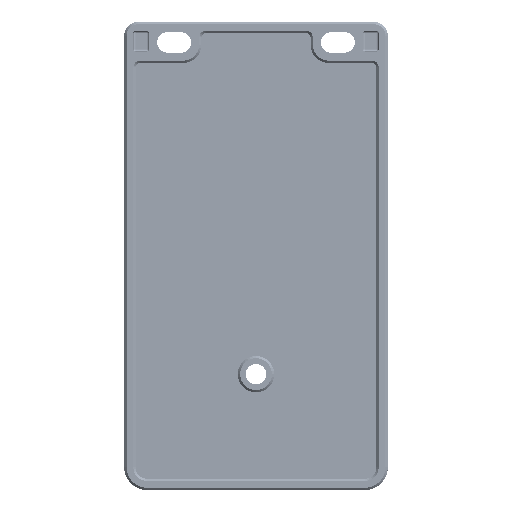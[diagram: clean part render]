
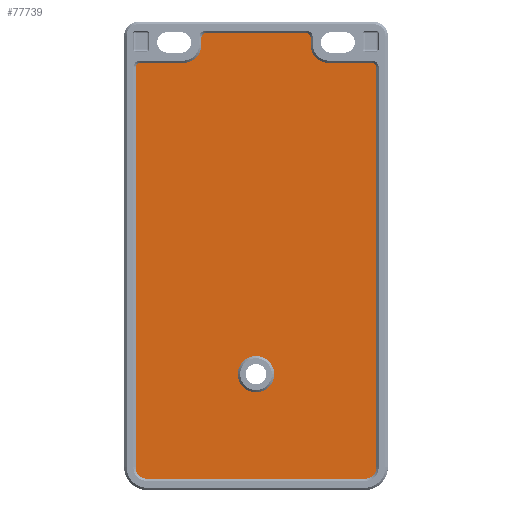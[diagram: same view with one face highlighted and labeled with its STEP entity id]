
A CAD part, front view. The second image highlights one B-rep face of the part: STEP entity #77739.
In plain terms, the highlighted planar face has unit normal (0, -1, 0).
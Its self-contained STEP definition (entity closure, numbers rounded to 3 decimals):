
#13615=DIRECTION('',(0.,0.,1.));
#13616=VECTOR('',#13615,1.6);
#13617=CARTESIAN_POINT('',(-12.,0.5,
148.));
#13618=LINE('',#13617,#13616);
#13627=DIRECTION('',(1.,0.,0.));
#13628=VECTOR('',#13627,22.);
#13629=CARTESIAN_POINT('',(-11.,0.5,150.6));
#13630=LINE('',#13629,#13628);
#13639=DIRECTION('',(0.,0.,-1.));
#13640=VECTOR('',#13639,1.6);
#13641=CARTESIAN_POINT('',(12.,0.5,149.6));
#13642=LINE('',#13641,#13640);
#13651=DIRECTION('',(1.,0.,0.));
#13652=VECTOR('',#13651,9.5);
#13653=CARTESIAN_POINT('',(16.,0.5,144.));
#13654=LINE('',#13653,#13652);
#13663=DIRECTION('',(0.,0.,-1.));
#13664=VECTOR('',#13663,88.);
#13665=CARTESIAN_POINT('',(26.5,0.5,
143.));
#13666=LINE('',#13665,#13664);
#13683=DIRECTION('',(-1.,0.,0.));
#13684=VECTOR('',#13683,48.);
#13685=CARTESIAN_POINT('',(24.,0.5,
52.5));
#13686=LINE('',#13685,#13684);
#13699=DIRECTION('',(0.,0.,1.));
#13700=VECTOR('',#13699,88.);
#13701=CARTESIAN_POINT('',(-26.5,0.5,
55.));
#13702=LINE('',#13701,#13700);
#13711=DIRECTION('',(1.,0.,0.));
#13712=VECTOR('',#13711,9.5);
#13713=CARTESIAN_POINT('',(-25.5,0.5,144.));
#13714=LINE('',#13713,#13712);
#13715=CARTESIAN_POINT('',(-25.5,0.5,143.));
#13716=DIRECTION('',(0.,-1.,0.));
#13717=DIRECTION('',(0.,0.,1.));
#13718=AXIS2_PLACEMENT_3D('',#13715,#13716,#13717);
#13720=CARTESIAN_POINT('',(-16.,0.5,148.));
#13721=DIRECTION('',(0.,1.,0.));
#13722=DIRECTION('',(1.,0.,0.));
#13723=AXIS2_PLACEMENT_3D('',#13720,#13721,#13722);
#13725=CARTESIAN_POINT('',(-11.,0.5,149.6));
#13726=DIRECTION('',(0.,-1.,0.));
#13727=DIRECTION('',(0.,0.,1.));
#13728=AXIS2_PLACEMENT_3D('',#13725,#13726,#13727);
#13730=CARTESIAN_POINT('',(11.,0.5,149.6));
#13731=DIRECTION('',(0.,-1.,0.));
#13732=DIRECTION('',(1.,0.,0.));
#13733=AXIS2_PLACEMENT_3D('',#13730,#13731,#13732);
#13735=CARTESIAN_POINT('',(16.,0.5,148.));
#13736=DIRECTION('',(0.,1.,0.));
#13737=DIRECTION('',(0.,0.,-1.));
#13738=AXIS2_PLACEMENT_3D('',#13735,#13736,#13737);
#13740=CARTESIAN_POINT('',(25.5,0.5,143.));
#13741=DIRECTION('',(0.,-1.,0.));
#13742=DIRECTION('',(1.,0.,0.));
#13743=AXIS2_PLACEMENT_3D('',#13740,#13741,#13742);
#13745=CARTESIAN_POINT('',(24.,0.5,55.));
#13746=DIRECTION('',(0.,-1.,0.));
#13747=DIRECTION('',(0.,0.,-1.));
#13748=AXIS2_PLACEMENT_3D('',#13745,#13746,#13747);
#13750=CARTESIAN_POINT('',(-24.,0.5,55.));
#13751=DIRECTION('',(0.,-1.,0.));
#13752=DIRECTION('',(-1.,0.,0.));
#13753=AXIS2_PLACEMENT_3D('',#13750,#13751,#13752);
#13755=CARTESIAN_POINT('',(0.,0.5,75.5));
#13756=DIRECTION('',(0.,1.,0.));
#13757=DIRECTION('',(0.,0.,1.));
#13758=AXIS2_PLACEMENT_3D('',#13755,#13756,#13757);
#13760=CARTESIAN_POINT('',(0.,0.5,75.5));
#13761=DIRECTION('',(0.,1.,0.));
#13762=DIRECTION('',(0.,0.,-1.));
#13763=AXIS2_PLACEMENT_3D('',#13760,#13761,#13762);
#60964=CARTESIAN_POINT('',(12.,0.5,149.6));
#60965=CARTESIAN_POINT('',(12.,0.5,
148.));
#60966=VERTEX_POINT('',#60964);
#60967=VERTEX_POINT('',#60965);
#61188=CARTESIAN_POINT('',(26.5,0.5,
55.));
#61190=VERTEX_POINT('',#61188);
#62157=CARTESIAN_POINT('',(24.,0.5,
52.5));
#62159=VERTEX_POINT('',#62157);
#62976=CARTESIAN_POINT('',(26.5,0.5,143.));
#62977=CARTESIAN_POINT('',(25.5,0.5,144.));
#62978=VERTEX_POINT('',#62976);
#62979=VERTEX_POINT('',#62977);
#63154=CARTESIAN_POINT('',(-11.,0.5,150.6));
#63155=CARTESIAN_POINT('',(11.,0.5,150.6));
#63156=VERTEX_POINT('',#63154);
#63157=VERTEX_POINT('',#63155);
#63378=CARTESIAN_POINT('',(0.,0.5,71.5));
#63379=CARTESIAN_POINT('',(0.,0.5,79.5));
#63380=VERTEX_POINT('',#63378);
#63381=VERTEX_POINT('',#63379);
#66233=CARTESIAN_POINT('',(-26.5,0.5,
55.));
#66235=VERTEX_POINT('',#66233);
#66544=CARTESIAN_POINT('',(16.,0.5,144.));
#66545=VERTEX_POINT('',#66544);
#67872=CARTESIAN_POINT('',(-26.5,0.5,
143.));
#67873=VERTEX_POINT('',#67872);
#68200=CARTESIAN_POINT('',(-12.,0.5,
149.6));
#68201=VERTEX_POINT('',#68200);
#68900=CARTESIAN_POINT('',(-24.,0.5,
52.5));
#68901=VERTEX_POINT('',#68900);
#68997=CARTESIAN_POINT('',(-25.5,0.5,144.));
#68998=VERTEX_POINT('',#68997);
#70296=CARTESIAN_POINT('',(-16.,0.5,144.));
#70298=VERTEX_POINT('',#70296);
#70352=CARTESIAN_POINT('',(-12.,0.5,
148.));
#70353=VERTEX_POINT('',#70352);
#77710=CARTESIAN_POINT('',(0.,0.5,98.25));
#77711=DIRECTION('',(0.,-1.,0.));
#77712=DIRECTION('',(1.,0.,0.));
#77713=AXIS2_PLACEMENT_3D('',#77710,#77711,#77712);
#77714=PLANE('',#77713);
#77715=ORIENTED_EDGE('',*,*,#77678,.T.);
#77716=ORIENTED_EDGE('',*,*,#77692,.F.);
#77717=ORIENTED_EDGE('',*,*,#77703,.T.);
#77718=ORIENTED_EDGE('',*,*,#77493,.F.);
#77719=ORIENTED_EDGE('',*,*,#77508,.T.);
#77720=ORIENTED_EDGE('',*,*,#77524,.F.);
#77721=ORIENTED_EDGE('',*,*,#77536,.T.);
#77722=ORIENTED_EDGE('',*,*,#77552,.F.);
#77723=ORIENTED_EDGE('',*,*,#77564,.T.);
#77724=ORIENTED_EDGE('',*,*,#77578,.F.);
#77725=ORIENTED_EDGE('',*,*,#77592,.T.);
#77726=ORIENTED_EDGE('',*,*,#77608,.F.);
#77727=ORIENTED_EDGE('',*,*,#77620,.T.);
#77728=ORIENTED_EDGE('',*,*,#77636,.F.);
#77729=ORIENTED_EDGE('',*,*,#77650,.T.);
#77730=ORIENTED_EDGE('',*,*,#77664,.F.);
#77731=EDGE_LOOP('',(#77715,#77716,#77717,#77718,#77719,#77720,#77721,#77722,
#77723,#77724,#77725,#77726,#77727,#77728,#77729,#77730));
#77732=FACE_OUTER_BOUND('',#77731,.F.);
#77734=ORIENTED_EDGE('',*,*,#77733,.F.);
#77736=ORIENTED_EDGE('',*,*,#77735,.F.);
#77737=EDGE_LOOP('',(#77734,#77736));
#77738=FACE_BOUND('',#77737,.F.);
#77739=ADVANCED_FACE('',(#77732,#77738),#77714,.T.);
#13719=CIRCLE('',#13718,1.);
#13724=CIRCLE('',#13723,4.);
#13729=CIRCLE('',#13728,1.);
#13734=CIRCLE('',#13733,1.);
#13739=CIRCLE('',#13738,4.);
#13744=CIRCLE('',#13743,1.);
#13749=CIRCLE('',#13748,2.5);
#13754=CIRCLE('',#13753,2.5);
#13759=CIRCLE('',#13758,4.);
#13764=CIRCLE('',#13763,4.);
#77493=EDGE_CURVE('',#70353,#70298,#13724,.T.);
#77508=EDGE_CURVE('',#70353,#68201,#13618,.T.);
#77524=EDGE_CURVE('',#63156,#68201,#13729,.T.);
#77536=EDGE_CURVE('',#63156,#63157,#13630,.T.);
#77552=EDGE_CURVE('',#60966,#63157,#13734,.T.);
#77564=EDGE_CURVE('',#60966,#60967,#13642,.T.);
#77578=EDGE_CURVE('',#66545,#60967,#13739,.T.);
#77592=EDGE_CURVE('',#66545,#62979,#13654,.T.);
#77608=EDGE_CURVE('',#62978,#62979,#13744,.T.);
#77620=EDGE_CURVE('',#62978,#61190,#13666,.T.);
#77636=EDGE_CURVE('',#62159,#61190,#13749,.T.);
#77650=EDGE_CURVE('',#62159,#68901,#13686,.T.);
#77664=EDGE_CURVE('',#66235,#68901,#13754,.T.);
#77678=EDGE_CURVE('',#66235,#67873,#13702,.T.);
#77692=EDGE_CURVE('',#68998,#67873,#13719,.T.);
#77703=EDGE_CURVE('',#68998,#70298,#13714,.T.);
#77733=EDGE_CURVE('',#63381,#63380,#13759,.T.);
#77735=EDGE_CURVE('',#63380,#63381,#13764,.T.);
